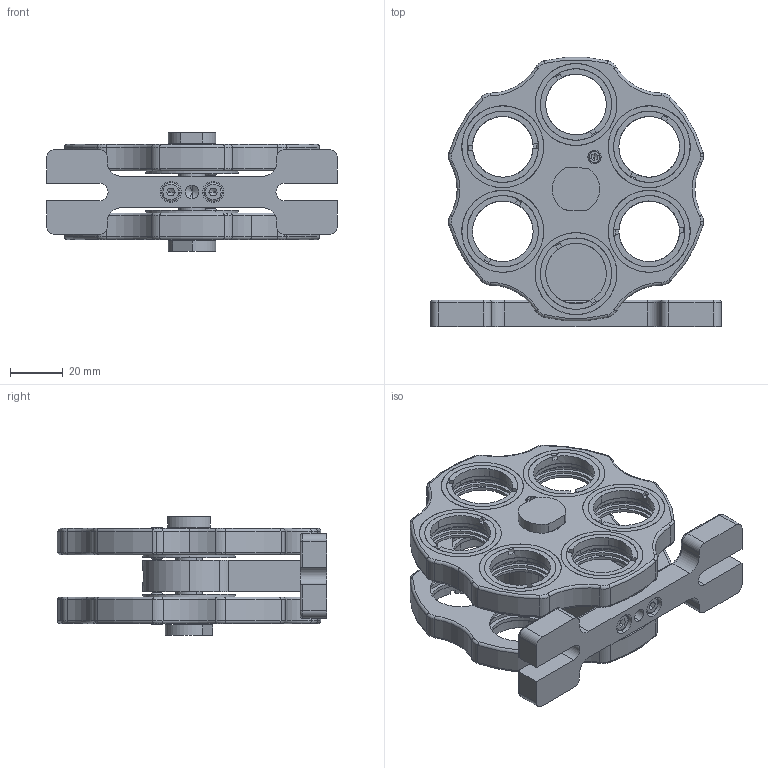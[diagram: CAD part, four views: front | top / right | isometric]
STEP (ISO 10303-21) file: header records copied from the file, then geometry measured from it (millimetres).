
FILE_DESCRIPTION (( 'STEP AP203' ), '1' );
FILE_NAME ('7MMF3254薦嫖え謫.STEP', '2019-12-04T03:23:18', ( '' ), ( '' ), 'SwSTEP 2.0', 'SolidWorks 2018', '' );
FILE_SCHEMA (( 'CONFIG_CONTROL_DESIGN' ));
Length unit declared in the file: millimetre
Products named in the file (1): 7MMF3254薦嫖え謫
Bounding box: 110 x 101.83 x 45 mm (x, y, z)
Volume: 132299.9 mm3; surface area: 99935.9 mm2
Topology: 51 solids, 51 shells, 1023 faces, 2357 edges, 1460 vertices
Faces by surface type: cylinder 424, plane 327, cone 144, torus 124, sphere 4
Entity records: 29330 total; most frequent: DIRECTION 5711, CARTESIAN_POINT 4925, ORIENTED_EDGE 4626, AXIS2_PLACEMENT_3D 2378, EDGE_CURVE 2313, VERTEX_POINT 1460, CIRCLE 1354, EDGE_LOOP 1211
